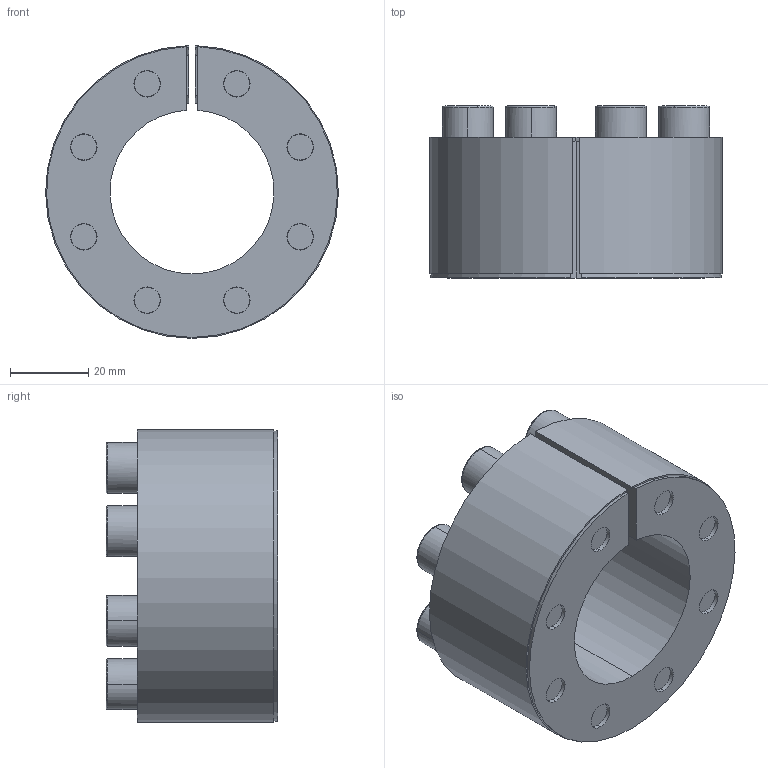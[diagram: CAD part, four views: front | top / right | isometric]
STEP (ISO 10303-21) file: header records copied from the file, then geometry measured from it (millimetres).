
FILE_DESCRIPTION (( 'STEP AP214' ), '1' );
FILE_NAME ('CONEX-K-42x75.step', '2015-09-15T13:16:27', ( '' ), ( '' ), 'SwSTEP 2.0', 'SolidWorks 2013', '' );
FILE_SCHEMA (( 'AUTOMOTIVE_DESIGN' ));
Length unit declared in the file: millimetre
Products named in the file (1): CONEX-K-42x75
Bounding box: 75 x 44.01 x 74.99 mm (x, y, z)
Volume: 94160.4 mm3; surface area: 52600.1 mm2
Topology: 10 solids, 10 shells, 280 faces, 691 edges, 431 vertices
Faces by surface type: plane 130, cylinder 78, cone 40, bspline 32
Entity records: 12731 total; most frequent: CARTESIAN_POINT 2851, DIRECTION 1446, ORIENTED_EDGE 1350, EDGE_CURVE 675, AXIS2_PLACEMENT_3D 562, VERTEX_POINT 431, EDGE_LOOP 336, VECTOR 322
